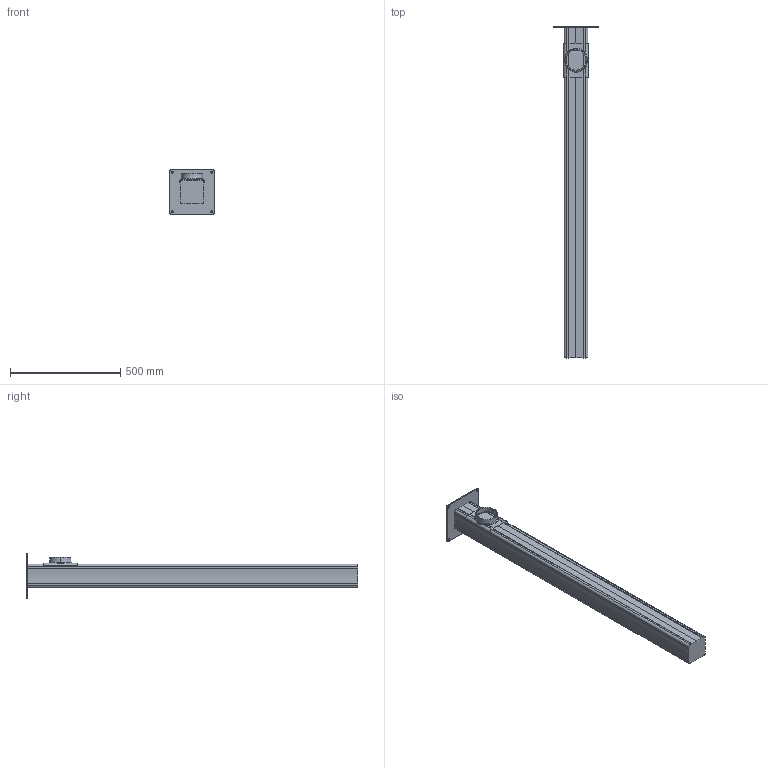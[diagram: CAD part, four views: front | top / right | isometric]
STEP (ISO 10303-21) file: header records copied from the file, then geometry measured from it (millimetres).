
FILE_DESCRIPTION((''),'2;1');
FILE_NAME('101346','2015-01-09T',('Tomas Bellgran'),(''),'PRO/ENGINEER BY PARAMETRIC TECHNOLOGY CORPORATION, 2013410','PRO/ENGINEER BY PARAMETRIC TECHNOLOGY CORPORATION, 2013410','');
FILE_SCHEMA(('AUTOMOTIVE_DESIGN { 1 0 10303 214 1 1 1 1 }'));
Length unit declared in the file: millimetre
Products named in the file (6): 100765; 100727; G_MTI_SPIGOT_75; G_MTI_SPIGOT_75_TPE; 101335; 101346
Assembly tree (5 placements, depth 3):
  101346
    100765
    100727
    101335
      G_MTI_SPIGOT_75
      G_MTI_SPIGOT_75_TPE
Bounding box: 200 x 1505 x 200 mm (x, y, z)
Volume: 16963357.8 mm3; surface area: 781647.5 mm2
Topology: 4 solids, 4 shells, 151 faces, 365 edges, 221 vertices
Faces by surface type: bspline 56, cylinder 45, plane 30, torus 12, cone 8
Entity records: 11079 total; most frequent: CARTESIAN_POINT 4469, ORIENTED_EDGE 730, DIRECTION 598, PRESENTATION_STYLE_ASSIGNMENT 464, STYLED_ITEM 464, CURVE_STYLE 365, EDGE_CURVE 365, PROPERTY_DEFINITION 256
